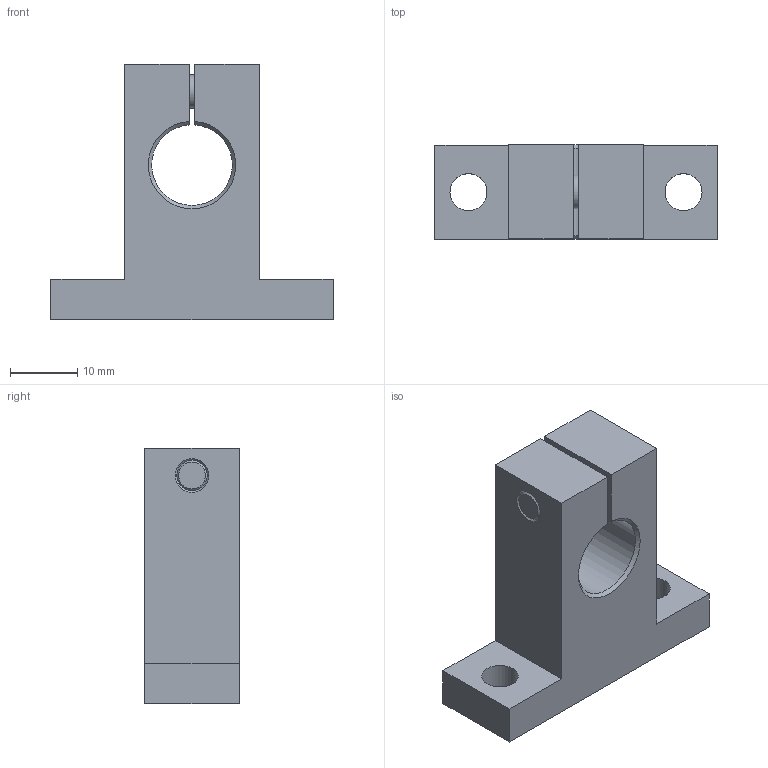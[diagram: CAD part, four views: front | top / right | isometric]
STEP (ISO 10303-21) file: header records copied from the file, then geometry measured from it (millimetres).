
FILE_DESCRIPTION( ( 'Unknown' ), '1' );
FILE_NAME( 'D:/累诀/己绕皋墨飘肺葱胶/11-04-06_档搁累己/04_箕橇飘/SK/SK 12.stp', 'Unknown', ( 'Unknown' ), ( 'Unknown' ), 'PSStep 11.0', 'Unknown', ' ' );
FILE_SCHEMA( ( 'AUTOMOTIVE_DESIGN { 1 0 10303 214 1 1 1 1 }' ) );
Length unit declared in the file: millimetre
Products named in the file (1): 1
Bounding box: 42 x 14 x 38 mm (x, y, z)
Volume: 10508.7 mm3; surface area: 4716.8 mm2
Topology: 1 solids, 1 shells, 38 faces, 93 edges, 62 vertices
Faces by surface type: plane 24, cylinder 8, cone 5, torus 1
Full cylindrical faces by diameter (mm): 2.08 x1, 5 x2, 5.5 x3, 5.61 x1
Entity records: 1368 total; most frequent: CARTESIAN_POINT 188, DIRECTION 174, ORIENTED_EDGE 156, EDGE_CURVE 78, AXIS2_PLACEMENT_3D 61, EDGE_LOOP 60, VERTEX_POINT 59, LINE 52
